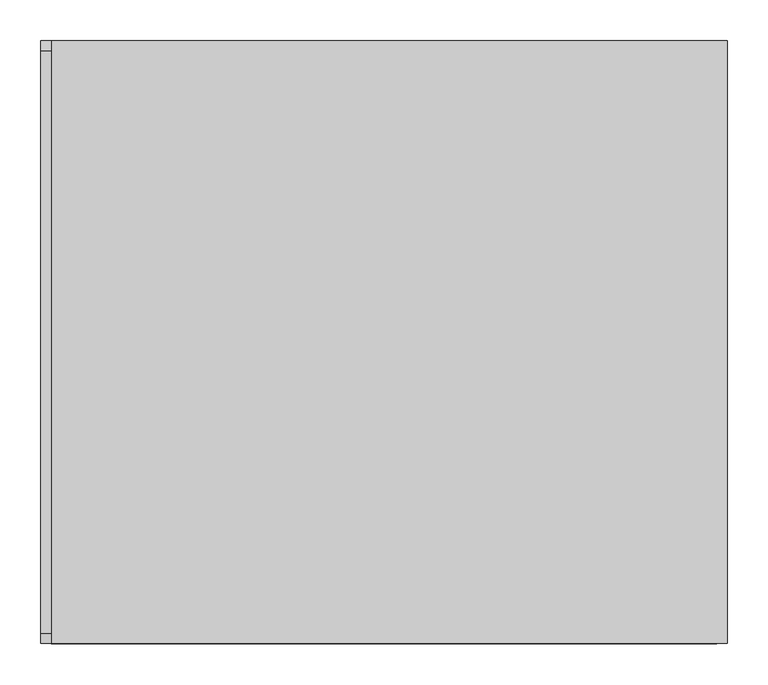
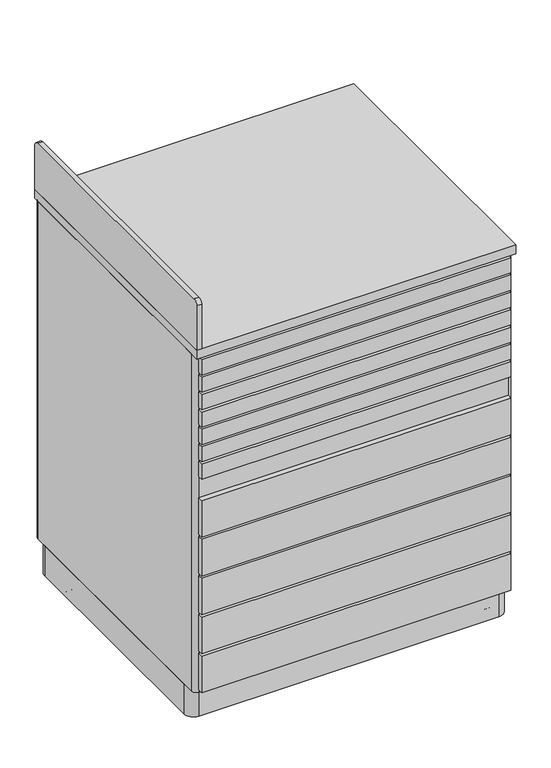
"""IFC4 building model written with IfcOpenShell, lengths in millimetres: proxy geometry, M3150 - Distribution System, Medication, Automatic : M3150 - Distribution System, Medication, Automatic."""

from ifc_helpers import new_model, si_unit, point, frame, frame_2d, origin, place, context, project, spatial, polyline, circle_curve, trimmed, segment, composite_curve, outline, extrude, source, transform, mapped, element, save


def specialty_equipment_9af4d08e(model_context):
    return source(origin(), model_context, "Body", "SweptSolid", [
        extrude(outline(polyline([(406.4005715, -368.3), (-406.3994285, -368.3), (-406.3994285, -355.6), (406.4005715, -355.6), (406.4005715, -368.3)])), frame((0.0, 0.0, 539.75), z_axis=(0.0, 0.0, 1.0), x_axis=(1.0, 0.0, 0.0)), (0.0, 0.0, 1.0), 101.6),
        extrude(outline(composite_curve([segment(trimmed(circle_curve(frame_2d((355.6, 1186.4297976)), 12.7), [point((355.6, 1199.1297976))], [point((368.3, 1186.4297976))], False, "CARTESIAN"), True, "CONTINUOUS"), segment(polyline([(368.3, 1186.4297976), (368.3, 1063.6005557), (-368.3, 1063.6005557), (-368.3, 1186.4297976)]), True, "CONTINUOUS"), segment(trimmed(circle_curve(frame_2d((-355.6, 1186.4297976)), 12.7), [point((-368.3, 1186.4297976))], [point((-355.6, 1199.1297976))], False, "CARTESIAN"), True, "CONTINUOUS"), segment(polyline([(-355.6, 1199.1297976), (355.6, 1199.1297976)]), True, "CONTINUOUS")], self_intersect=False)), frame((-419.1, 0.0, 0.0), z_axis=(1.0, 0.0, 0.0), x_axis=(0.0, 1.0, 0.0)), (0.0, 0.0, 1.0), 12.643944),
        extrude(outline(polyline([(406.4005715, -368.3), (-406.3994285, -368.3), (-406.3994285, -355.6), (406.4005715, -355.6), (406.4005715, -368.3)])), frame((0.0, 0.0, 431.8), z_axis=(0.0, 0.0, 1.0), x_axis=(1.0, 0.0, 0.0)), (0.0, 0.0, 1.0), 101.6),
        extrude(outline(polyline([(406.4005715, -368.3), (-406.3994285, -368.3), (-406.3994285, -355.6), (406.4005715, -355.6), (406.4005715, -368.3)])), frame((0.0, 0.0, 323.85), z_axis=(0.0, 0.0, 1.0), x_axis=(1.0, 0.0, 0.0)), (0.0, 0.0, 1.0), 101.6),
        extrude(outline(polyline([(406.4005715, -368.3), (-406.3994285, -368.3), (-406.3994285, -355.6), (406.4005715, -355.6), (406.4005715, -368.3)])), frame((0.0, 0.0, 700.4416329), z_axis=(0.0, 0.0, 1.0), x_axis=(1.0, 0.0, 0.0)), (0.0, 0.0, 1.0), 41.9012747),
        extrude(outline(polyline([(406.4005715, -368.3), (-406.3994285, -368.3), (-406.3994285, -355.6), (406.4005715, -355.6), (406.4005715, -368.3)])), frame((0.0, 0.0, 748.6929076), z_axis=(0.0, 0.0, 1.0), x_axis=(1.0, 0.0, 0.0)), (0.0, 0.0, 1.0), 41.9012747),
        extrude(outline(polyline([(406.4005715, -368.3), (-406.3994285, -368.3), (-406.3994285, -355.6), (406.4005715, -355.6), (406.4005715, -368.3)])), frame((0.0, 0.0, 796.9441823), z_axis=(0.0, 0.0, 1.0), x_axis=(1.0, 0.0, 0.0)), (0.0, 0.0, 1.0), 41.9012747),
        extrude(outline(polyline([(406.4005715, -368.3), (-406.3994285, -368.3), (-406.3994285, -355.6), (406.4005715, -355.6), (406.4005715, -368.3)])), frame((0.0, 0.0, 845.1954569), z_axis=(0.0, 0.0, 1.0), x_axis=(1.0, 0.0, 0.0)), (0.0, 0.0, 1.0), 41.9012747),
        extrude(outline(polyline([(406.4005715, -368.3), (-406.3994285, -368.3), (-406.3994285, -355.6), (406.4005715, -355.6), (406.4005715, -368.3)])), frame((0.0, 0.0, 893.4467316), z_axis=(0.0, 0.0, 1.0), x_axis=(1.0, 0.0, 0.0)), (0.0, 0.0, 1.0), 41.9012747),
        extrude(outline(polyline([(406.4005715, -368.3), (-406.3994285, -368.3), (-406.3994285, -355.6), (406.4005715, -355.6), (406.4005715, -368.3)])), frame((0.0, 0.0, 941.6980063), z_axis=(0.0, 0.0, 1.0), x_axis=(1.0, 0.0, 0.0)), (0.0, 0.0, 1.0), 41.9012747),
        extrude(outline(polyline([(406.4005715, -368.3), (-406.3994285, -368.3), (-406.3994285, -355.6), (406.4005715, -355.6), (406.4005715, -368.3)])), frame((0.0, 0.0, 215.9), z_axis=(0.0, 0.0, 1.0), x_axis=(1.0, 0.0, 0.0)), (0.0, 0.0, 1.0), 101.6),
        extrude(outline(polyline([(406.4005715, -368.3), (-406.3994285, -368.3), (-406.3994285, -355.6), (406.4005715, -355.6), (406.4005715, -368.3)])), frame((0.0, 0.0, 107.95), z_axis=(0.0, 0.0, 1.0), x_axis=(1.0, 0.0, 0.0)), (0.0, 0.0, 1.0), 101.6),
        extrude(outline(polyline([(282.575, 31.75), (269.875, 31.75), (262.0372657, 76.2), (290.4127343, 76.2), (282.575, 31.75)])), frame((-387.35, 0.0, 0.0), z_axis=(1.0, 0.0, 0.0), x_axis=(0.0, 1.0, 0.0)), (0.0, 0.0, 1.0), 3.175),
        extrude(outline(polyline([(282.575, 31.75), (269.875, 31.75), (262.0372657, 76.2), (290.4127343, 76.2), (282.575, 31.75)])), frame((-403.225, 0.0, 0.0), z_axis=(1.0, 0.0, 0.0), x_axis=(0.0, 1.0, 0.0)), (0.0, 0.0, 1.0), 3.175),
        extrude(outline(composite_curve([segment(trimmed(circle_curve(frame_2d((276.225, 31.75)), 31.75), [point((307.975, 31.75))], [point((244.475, 31.75))], False, "CARTESIAN"), True, "CONTINUOUS"), segment(trimmed(circle_curve(frame_2d((276.225, 31.75)), 31.75), [point((244.475, 31.75))], [point((307.975, 31.75))], False, "CARTESIAN"), True, "CONTINUOUS")], self_intersect=False)), frame((-400.05, 0.0, 0.0), z_axis=(1.0, 0.0, 0.0), x_axis=(0.0, 1.0, 0.0)), (0.0, 0.0, 1.0), 12.7),
        extrude(outline(polyline([(-266.7, 31.75), (-274.5377343, 76.2), (-246.1622657, 76.2), (-254.0, 31.75), (-266.7, 31.75)])), frame((-387.35, 0.0, 0.0), z_axis=(1.0, 0.0, 0.0), x_axis=(0.0, 1.0, 0.0)), (0.0, 0.0, 1.0), 3.175),
        extrude(outline(polyline([(-266.7, 31.75), (-274.5377343, 76.2), (-246.1622657, 76.2), (-254.0, 31.75), (-266.7, 31.75)])), frame((-403.225, 0.0, 0.0), z_axis=(1.0, 0.0, 0.0), x_axis=(0.0, 1.0, 0.0)), (0.0, 0.0, 1.0), 3.175),
        extrude(outline(composite_curve([segment(trimmed(circle_curve(frame_2d((-260.35, 31.75)), 31.75), [point((-292.1, 31.75))], [point((-228.6, 31.75))], False, "CARTESIAN"), True, "CONTINUOUS"), segment(trimmed(circle_curve(frame_2d((-260.35, 31.75)), 31.75), [point((-228.6, 31.75))], [point((-292.1, 31.75))], False, "CARTESIAN"), True, "CONTINUOUS")], self_intersect=False)), frame((-400.05, 0.0, 0.0), z_axis=(1.0, 0.0, 0.0), x_axis=(0.0, 1.0, 0.0)), (0.0, 0.0, 1.0), 12.7),
        extrude(outline(polyline([(282.575, 31.75), (269.875, 31.75), (262.0372657, 76.2), (290.4127343, 76.2), (282.575, 31.75)])), frame((384.175, 0.0, 0.0), z_axis=(1.0, 0.0, 0.0), x_axis=(0.0, 1.0, 0.0)), (0.0, 0.0, 1.0), 3.175),
        extrude(outline(polyline([(282.575, 31.75), (269.875, 31.75), (262.0372657, 76.2), (290.4127343, 76.2), (282.575, 31.75)])), frame((400.05, 0.0, 0.0), z_axis=(1.0, 0.0, 0.0), x_axis=(0.0, 1.0, 0.0)), (0.0, 0.0, 1.0), 3.175),
        extrude(outline(composite_curve([segment(trimmed(circle_curve(frame_2d((276.225, 31.75)), 31.75), [point((307.975, 31.75))], [point((244.475, 31.75))], False, "CARTESIAN"), True, "CONTINUOUS"), segment(trimmed(circle_curve(frame_2d((276.225, 31.75)), 31.75), [point((244.475, 31.75))], [point((307.975, 31.75))], False, "CARTESIAN"), True, "CONTINUOUS")], self_intersect=False)), frame((387.35, 0.0, 0.0), z_axis=(1.0, 0.0, 0.0), x_axis=(0.0, 1.0, 0.0)), (0.0, 0.0, 1.0), 12.7),
        extrude(outline(polyline([(-266.7, 31.75), (-274.5377343, 76.2), (-246.1622657, 76.2), (-254.0, 31.75), (-266.7, 31.75)])), frame((384.175, 0.0, 0.0), z_axis=(1.0, 0.0, 0.0), x_axis=(0.0, 1.0, 0.0)), (0.0, 0.0, 1.0), 3.175),
        extrude(outline(polyline([(-266.7, 31.75), (-274.5377343, 76.2), (-246.1622657, 76.2), (-254.0, 31.75), (-266.7, 31.75)])), frame((400.05, 0.0, 0.0), z_axis=(1.0, 0.0, 0.0), x_axis=(0.0, 1.0, 0.0)), (0.0, 0.0, 1.0), 3.175),
        extrude(outline(composite_curve([segment(trimmed(circle_curve(frame_2d((-260.35, 31.75)), 31.75), [point((-292.1, 31.75))], [point((-228.6, 31.75))], False, "CARTESIAN"), True, "CONTINUOUS"), segment(trimmed(circle_curve(frame_2d((-260.35, 31.75)), 31.75), [point((-228.6, 31.75))], [point((-292.1, 31.75))], False, "CARTESIAN"), True, "CONTINUOUS")], self_intersect=False)), frame((387.35, 0.0, 0.0), z_axis=(1.0, 0.0, 0.0), x_axis=(0.0, 1.0, 0.0)), (0.0, 0.0, 1.0), 12.7),
        extrude(outline(polyline([(406.4005715, -368.3), (-406.3994285, -368.3), (-406.3994285, -355.6), (406.4005715, -355.6), (406.4005715, -368.3)])), frame((0.0, 0.0, 989.949281), z_axis=(0.0, 0.0, 1.0), x_axis=(1.0, 0.0, 0.0)), (0.0, 0.0, 1.0), 41.9012747),
        extrude(outline(composite_curve([segment(trimmed(circle_curve(frame_2d((406.3994302, 355.3664649)), 12.7), [point((406.3994302, 368.0664649))], [point((419.0994302, 355.3664649))], False, "CARTESIAN"), True, "CONTINUOUS"), segment(polyline([(419.0994302, 355.3664649), (419.0994302, -342.5812028)]), True, "CONTINUOUS"), segment(trimmed(circle_curve(frame_2d((406.3994302, -342.5812028)), 12.7), [point((419.0994302, -342.5812028))], [point((406.3994302, -355.2812028))], False, "CARTESIAN"), True, "CONTINUOUS"), segment(polyline([(406.3994302, -355.2812028), (-406.4, -355.2812028)]), True, "CONTINUOUS"), segment(trimmed(circle_curve(frame_2d((-406.4, -342.5812028)), 12.7), [point((-406.4, -355.2812028))], [point((-419.1, -342.5812028))], False, "CARTESIAN"), True, "CONTINUOUS"), segment(polyline([(-419.1, -342.5812028), (-419.1, 355.3664649)]), True, "CONTINUOUS"), segment(trimmed(circle_curve(frame_2d((-406.4, 355.3664649)), 12.7), [point((-419.1, 355.3664649))], [point((-406.4, 368.0664649))], False, "CARTESIAN"), True, "CONTINUOUS"), segment(polyline([(-406.4, 368.0664649), (406.3994302, 368.0664649)]), True, "CONTINUOUS")], self_intersect=False)), frame((0.0, 0.0, 101.6), z_axis=(0.0, 0.0, 1.0), x_axis=(1.0, 0.0, 0.0)), (0.0, 0.0, 1.0), 936.6005557),
        extrude(outline(polyline([(419.1, 368.3), (419.1, -368.3), (-419.1, -368.3), (-419.1, 368.3), (419.1, 368.3)])), frame((0.0, 0.0, 1038.2005557), z_axis=(0.0, 0.0, 1.0), x_axis=(1.0, 0.0, 0.0)), (0.0, 0.0, 1.0), 25.4),
        extrude(outline(composite_curve([segment(trimmed(circle_curve(frame_2d((393.7005307, 322.9201597)), 25.4), [point((393.7005307, 348.3201597))], [point((419.1005307, 322.9201597))], False, "CARTESIAN"), True, "CONTINUOUS"), segment(polyline([(419.1005307, 322.9201597), (419.1005307, -308.8919305)]), True, "CONTINUOUS"), segment(trimmed(circle_curve(frame_2d((393.7005307, -308.8919305)), 25.4), [point((419.1005307, -308.8919305))], [point((393.7005307, -334.2919305))], False, "CARTESIAN"), True, "CONTINUOUS"), segment(polyline([(393.7005307, -334.2919305), (-393.7, -334.2919305)]), True, "CONTINUOUS"), segment(trimmed(circle_curve(frame_2d((-393.7, -308.8919305)), 25.4), [point((-393.7, -334.2919305))], [point((-419.1, -308.8919305))], False, "CARTESIAN"), True, "CONTINUOUS"), segment(polyline([(-419.1, -308.8919305), (-419.1, 322.9201597)]), True, "CONTINUOUS"), segment(trimmed(circle_curve(frame_2d((-393.7, 322.9201597)), 25.4), [point((-419.1, 322.9201597))], [point((-393.7, 348.3201597))], False, "CARTESIAN"), True, "CONTINUOUS"), segment(polyline([(-393.7, 348.3201597), (393.7005307, 348.3201597)]), True, "CONTINUOUS")], self_intersect=False)), frame((0.0, 0.0, 17.8010188), z_axis=(0.0, 0.0, 1.0), x_axis=(1.0, 0.0, 0.0)), (0.0, 0.0, 1.0), 83.7989812),
    ])


if __name__ == "__main__":
    model = new_model("IFC4")
    model_context = context("Model", 3, world=origin())
    ifc_project = project(units=[si_unit("LENGTHUNIT", "METRE", prefix="MILLI")], contexts=[model_context])
    site = spatial("IfcSite", under=ifc_project)
    building = spatial("IfcBuilding", under=site)
    placement = place(None, origin())
    specialty_equipment_shape = specialty_equipment_9af4d08e(model_context)
    element("IfcBuildingElementProxy", 1, Name="M3150 - Distribution System, Medication, Automatic : M3150 - Distribution System, Medication, Automatic", ObjectType="M3150 - Distribution System, Medication, Automatic : M3150 - Distribution System, Medication, Automatic", at=placement, inside=building, context=model_context, shape_type="MappedRepresentation", body=[
        mapped(specialty_equipment_shape, transform((0.0, 0.0, 0.0), x_axis=(1.0, 0.0, 0.0), y_axis=(0.0, 1.0, 0.0), z_axis=(0.0, 0.0, 1.0))),
    ])
    save(model, "model.ifc")
